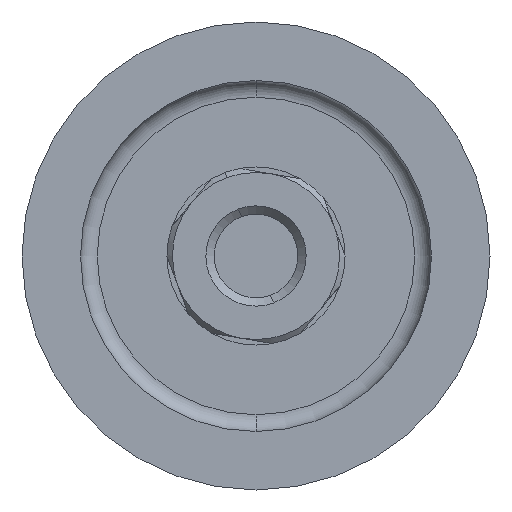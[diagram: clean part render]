
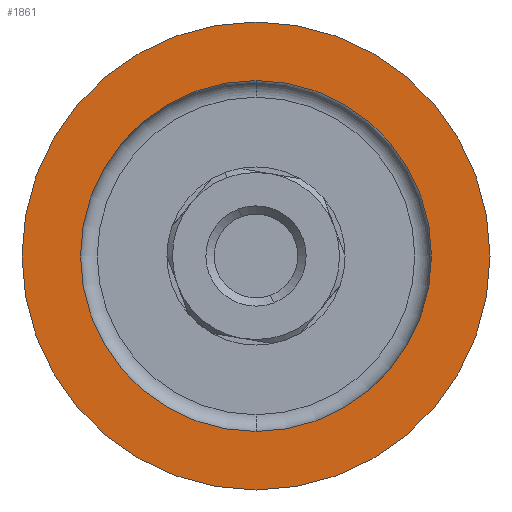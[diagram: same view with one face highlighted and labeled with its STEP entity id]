
A CAD part, front view. The second image highlights one B-rep face of the part: STEP entity #1861.
In plain terms, the highlighted planar face has unit normal (0, -1, 0).
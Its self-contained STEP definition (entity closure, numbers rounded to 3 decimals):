
#93 = ORIENTED_EDGE ( 'NONE', *, *, #660, .T. ) ;
#95 = ORIENTED_EDGE ( 'NONE', *, *, #654, .F. ) ;
#98 = ORIENTED_EDGE ( 'NONE', *, *, #673, .T. ) ;
#165 = ORIENTED_EDGE ( 'NONE', *, *, #603, .F. ) ;
#200 = FACE_OUTER_BOUND ( 'NONE', #1749, .T. ) ;
#209 = CIRCLE ( 'NONE', #2203, 10.5 ) ;
#406 = FACE_BOUND ( 'NONE', #1742, .T. ) ;
#483 = CIRCLE ( 'NONE', #2156, 14. ) ;
#530 = CIRCLE ( 'NONE', #2125, 14. ) ;
#556 = CIRCLE ( 'NONE', #2272, 10.5 ) ;
#603 = EDGE_CURVE ( 'NONE', #1693, #1675, #556, .T. ) ;
#654 = EDGE_CURVE ( 'NONE', #1675, #1693, #209, .T. ) ;
#660 = EDGE_CURVE ( 'NONE', #1679, #1692, #483, .T. ) ;
#673 = EDGE_CURVE ( 'NONE', #1692, #1679, #530, .T. ) ;
#743 = CARTESIAN_POINT ( 'NONE',  ( 0., 0., -14. ) ) ;
#818 = CARTESIAN_POINT ( 'NONE',  ( 0., 0., 14. ) ) ;
#831 = CARTESIAN_POINT ( 'NONE',  ( 0., 0., 10.5 ) ) ;
#860 = CARTESIAN_POINT ( 'NONE',  ( 7., 0., 0. ) ) ;
#861 = DIRECTION ( 'NONE',  ( 0., 0., -1. ) ) ;
#862 = DIRECTION ( 'NONE',  ( 0., -1., 0. ) ) ;
#863 = PLANE ( 'NONE',  #2177 ) ;
#979 = CARTESIAN_POINT ( 'NONE',  ( 0., 0., -10.5 ) ) ;
#1231 = DIRECTION ( 'NONE',  ( 0., -1., 0. ) ) ;
#1234 = DIRECTION ( 'NONE',  ( 0., 0., -1. ) ) ;
#1298 = DIRECTION ( 'NONE',  ( 0., -1., 0. ) ) ;
#1299 = DIRECTION ( 'NONE',  ( 0., 0., -1. ) ) ;
#1301 = CARTESIAN_POINT ( 'NONE',  ( 0., 0., 0. ) ) ;
#1307 = CARTESIAN_POINT ( 'NONE',  ( 0., 0., 0. ) ) ;
#1313 = DIRECTION ( 'NONE',  ( 0., -1., 0. ) ) ;
#1322 = DIRECTION ( 'NONE',  ( 0., 0., -1. ) ) ;
#1337 = CARTESIAN_POINT ( 'NONE',  ( 0., 0., 0. ) ) ;
#1618 = CARTESIAN_POINT ( 'NONE',  ( 0., 0., 0. ) ) ;
#1675 = VERTEX_POINT ( 'NONE', #979 ) ;
#1679 = VERTEX_POINT ( 'NONE', #818 ) ;
#1692 = VERTEX_POINT ( 'NONE', #743 ) ;
#1693 = VERTEX_POINT ( 'NONE', #831 ) ;
#1742 = EDGE_LOOP ( 'NONE', ( #95, #165 ) ) ;
#1749 = EDGE_LOOP ( 'NONE', ( #98, #93 ) ) ;
#1842 = DIRECTION ( 'NONE',  ( 0., 0., -1. ) ) ;
#1843 = DIRECTION ( 'NONE',  ( 0., -1., 0. ) ) ;
#1861 = ADVANCED_FACE ( 'NONE', ( #200, #406 ), #863, .T. ) ;
#2125 = AXIS2_PLACEMENT_3D ( 'NONE', #1337, #1231, #1234 ) ;
#2156 = AXIS2_PLACEMENT_3D ( 'NONE', #1307, #1313, #1322 ) ;
#2177 = AXIS2_PLACEMENT_3D ( 'NONE', #860, #862, #861 ) ;
#2203 = AXIS2_PLACEMENT_3D ( 'NONE', #1301, #1298, #1299 ) ;
#2272 = AXIS2_PLACEMENT_3D ( 'NONE', #1618, #1843, #1842 ) ;
